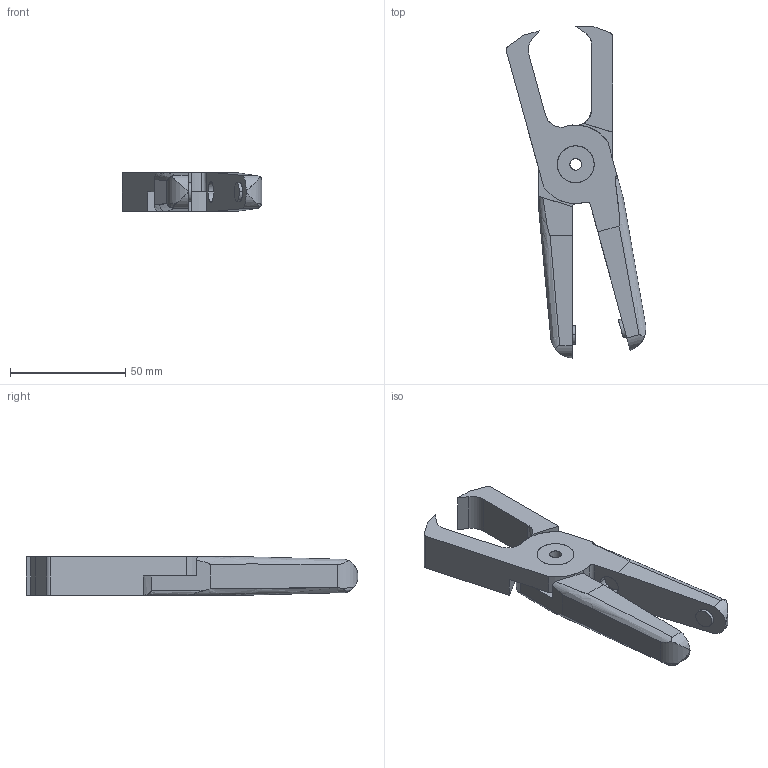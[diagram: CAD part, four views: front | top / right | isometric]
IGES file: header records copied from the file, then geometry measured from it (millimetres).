
Start section: SolidWorks IGES file using analytic representation for surfaces
Global section: file name: P:\DRAWINGS\SALES DWG FILE\Format (IGIS) 3D\N30AE767.IGS; native system: SolidWorks 2007; preprocessor: SolidWorks 2007; author: larry; date: 080108.155812; units: millimetre
Bounding box: 60.59 x 144 x 16.9 mm (x, y, z)
Surface area: 19042.3 mm2 (no closed solid volume)
Topology: 0 solids, 0 shells, 86 faces, 1222 edges, 1222 vertices
Faces by surface type: revolution 46, bspline 40
